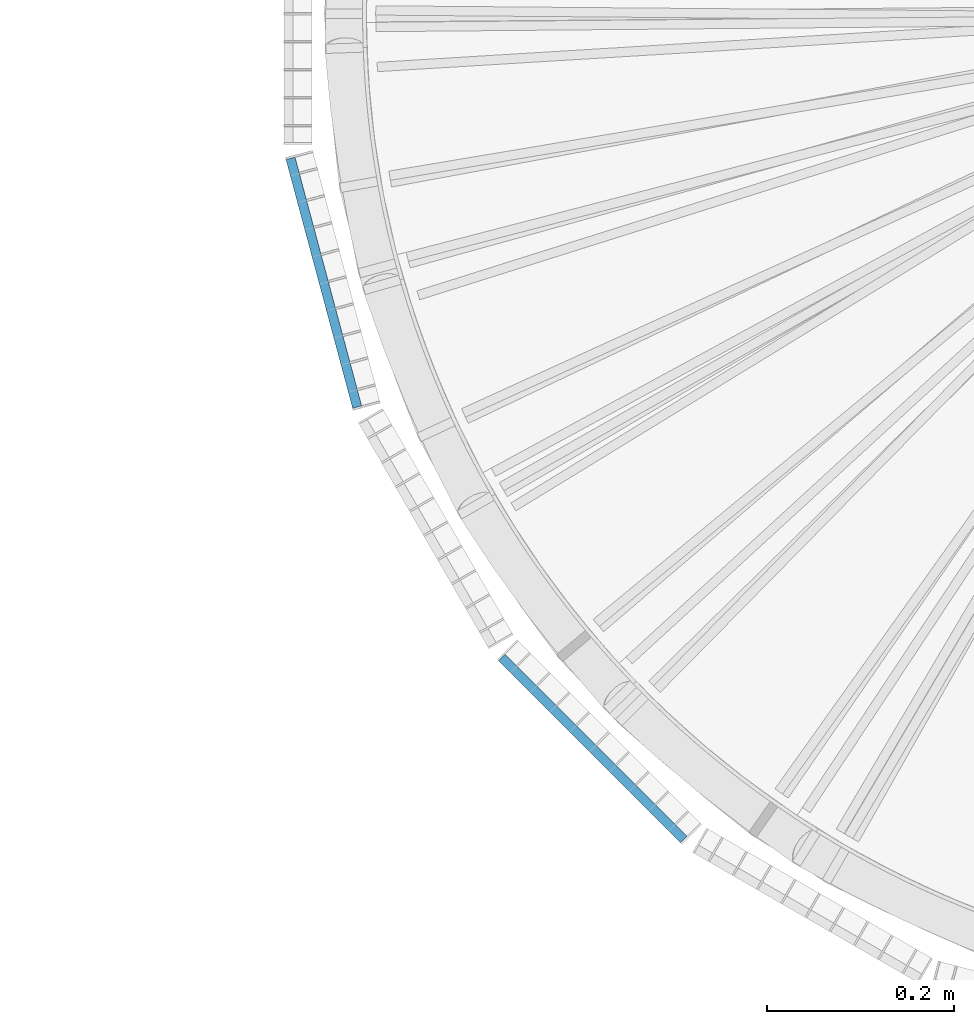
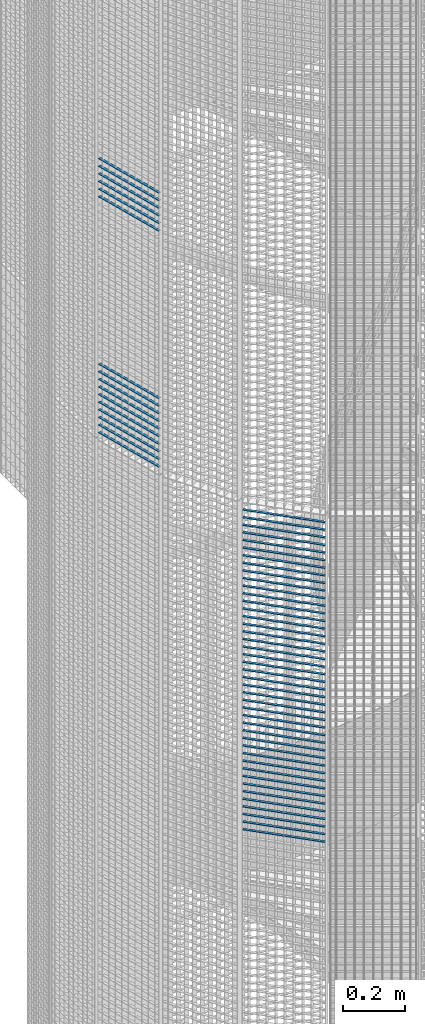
# One storey, part 124 of 1183: 59 beams, 2 elements without a shape of their own.
"""IFC2X3 building model written with IfcOpenShell, lengths in millimetres."""

from ifc_helpers import new_model, si_unit, frame, origin_with_axes, origin_2d_with_axis, place, context, subcontext, project, spatial, rectangle, extrude, material, type_object, element, aggregate, save


model = new_model("IFC2X3")

# Units and contexts
model_context = context("Model", 3, precision=1e-05, world=origin_with_axes())
body_context = subcontext(model_context, "Body", "Model", "MODEL_VIEW")
ifc_project = project(units=[si_unit("LENGTHUNIT", "METRE", prefix="MILLI"), si_unit("AREAUNIT", "SQUARE_METRE"), si_unit("VOLUMEUNIT", "CUBIC_METRE"), si_unit("MASSUNIT", "GRAM", prefix="KILO"), si_unit("TIMEUNIT", "SECOND"), si_unit("PLANEANGLEUNIT", "RADIAN"), si_unit("SOLIDANGLEUNIT", "STERADIAN"), si_unit("THERMODYNAMICTEMPERATUREUNIT", "DEGREE_CELSIUS"), si_unit("LUMINOUSINTENSITYUNIT", "LUMEN")], contexts=[model_context])

# Site, building, storey
site_placement = place(None, origin_with_axes())
site = spatial("IfcSite", under=ifc_project, at=site_placement, Name="Undefined", CompositionType="ELEMENT")
building_placement = place(site_placement, origin_with_axes())
building = spatial("IfcBuilding", under=site, at=building_placement, Name="Undefined", CompositionType="ELEMENT")
storey_placement = place(building_placement, origin_with_axes())
storey = spatial("IfcBuildingStorey", under=building, at=storey_placement, Name="Undefined", CompositionType="ELEMENT", Elevation=0.0)

# Assembly, beams
assembly_1_placement = place(storey_placement, origin_with_axes())
assembly_1 = element("IfcElementAssembly", 1, at=assembly_1_placement, inside=storey, Name="BORDURE", AssemblyPlace="NOTDEFINED", PredefinedType="NOTDEFINED")
ifc_material = material(Name="STEEL/S235JR")
beam_type = type_object("IfcBeamType", Name="PL2*10", PredefinedType="NOTDEFINED")
beam_1_placement = place(assembly_1_placement, frame((-1111.25508286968, -154.895926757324, 6960.0), z_axis=(-0.965925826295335, -0.258819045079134, 0.0), x_axis=(0.258819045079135, -0.965925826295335, 0.0)))
beam_1 = element("IfcBeam", 2, at=beam_1_placement, type_object=beam_type, material=ifc_material, Name="ENTRETOISE", context=body_context, shape_type="SweptSolid", body=[
    extrude(rectangle(XDim=2.0, YDim=10.0, at=origin_2d_with_axis()), frame((275.999999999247, 9.09494701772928e-13, 1.53210777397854e-14), z_axis=(-1.0, 0.0, 0.0), x_axis=(0.0, -1.0, 0.0)), (0.0, 0.0, 1.0), 276.0),
])
beam_2_placement = place(assembly_1_placement, frame((-1111.25508286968, -154.895926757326, 6300.0), z_axis=(-0.965925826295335, -0.258819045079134, 0.0), x_axis=(0.258819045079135, -0.965925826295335, 0.0)))
beam_2 = element("IfcBeam", 3, at=beam_2_placement, type_object=beam_type, material=ifc_material, Name="ENTRETOISE", context=body_context, shape_type="SweptSolid", body=[
    extrude(rectangle(XDim=2.0, YDim=10.0, at=origin_2d_with_axis()), frame((275.999999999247, 9.09494701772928e-13, 1.53210777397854e-14), z_axis=(-1.0, 0.0, 0.0), x_axis=(0.0, -1.0, 0.0)), (0.0, 0.0, 1.0), 276.0),
])
beam_3_placement = place(assembly_1_placement, frame((-1111.25508286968, -154.895926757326, 6270.0), z_axis=(-0.965925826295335, -0.258819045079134, 0.0), x_axis=(0.258819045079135, -0.965925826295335, 0.0)))
beam_3 = element("IfcBeam", 4, at=beam_3_placement, type_object=beam_type, material=ifc_material, Name="ENTRETOISE", context=body_context, shape_type="SweptSolid", body=[
    extrude(rectangle(XDim=2.0, YDim=10.0, at=origin_2d_with_axis()), frame((275.999999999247, 9.09494701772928e-13, 1.53210777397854e-14), z_axis=(-1.0, 0.0, 0.0), x_axis=(0.0, -1.0, 0.0)), (0.0, 0.0, 1.0), 276.0),
])
beam_4_placement = place(assembly_1_placement, frame((-1111.25508286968, -154.895926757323, 6990.0), z_axis=(-0.965925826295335, -0.258819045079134, 0.0), x_axis=(0.258819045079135, -0.965925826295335, 0.0)))
beam_4 = element("IfcBeam", 5, at=beam_4_placement, type_object=beam_type, material=ifc_material, Name="ENTRETOISE", context=body_context, shape_type="SweptSolid", body=[
    extrude(rectangle(XDim=2.0, YDim=10.0, at=origin_2d_with_axis()), frame((275.999999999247, 9.09494701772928e-13, 1.53210777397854e-14), z_axis=(-1.0, 0.0, 0.0), x_axis=(0.0, -1.0, 0.0)), (0.0, 0.0, 1.0), 276.0),
])
beam_5_placement = place(assembly_1_placement, frame((-1111.25508286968, -154.895926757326, 6240.0), z_axis=(-0.965925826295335, -0.258819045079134, 0.0), x_axis=(0.258819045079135, -0.965925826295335, 0.0)))
beam_5 = element("IfcBeam", 6, at=beam_5_placement, type_object=beam_type, material=ifc_material, Name="ENTRETOISE", context=body_context, shape_type="SweptSolid", body=[
    extrude(rectangle(XDim=2.0, YDim=10.0, at=origin_2d_with_axis()), frame((275.999999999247, 9.09494701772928e-13, 1.53210777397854e-14), z_axis=(-1.0, 0.0, 0.0), x_axis=(0.0, -1.0, 0.0)), (0.0, 0.0, 1.0), 276.0),
])
beam_6_placement = place(assembly_1_placement, frame((-1111.25508286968, -154.895926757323, 7020.0), z_axis=(-0.965925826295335, -0.258819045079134, 0.0), x_axis=(0.258819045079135, -0.965925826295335, 0.0)))
beam_6 = element("IfcBeam", 7, at=beam_6_placement, type_object=beam_type, material=ifc_material, Name="ENTRETOISE", context=body_context, shape_type="SweptSolid", body=[
    extrude(rectangle(XDim=2.0, YDim=10.0, at=origin_2d_with_axis()), frame((275.999999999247, 9.09494701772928e-13, 1.53210777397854e-14), z_axis=(-1.0, 0.0, 0.0), x_axis=(0.0, -1.0, 0.0)), (0.0, 0.0, 1.0), 276.0),
])
beam_7_placement = place(assembly_1_placement, frame((-1111.25508286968, -154.895926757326, 6210.0), z_axis=(-0.965925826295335, -0.258819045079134, 0.0), x_axis=(0.258819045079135, -0.965925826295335, 0.0)))
beam_7 = element("IfcBeam", 8, at=beam_7_placement, type_object=beam_type, material=ifc_material, Name="ENTRETOISE", context=body_context, shape_type="SweptSolid", body=[
    extrude(rectangle(XDim=2.0, YDim=10.0, at=origin_2d_with_axis()), frame((275.999999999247, 9.09494701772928e-13, 1.53210777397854e-14), z_axis=(-1.0, 0.0, 0.0), x_axis=(0.0, -1.0, 0.0)), (0.0, 0.0, 1.0), 276.0),
])
beam_8_placement = place(assembly_1_placement, frame((-1111.25508286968, -154.895926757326, 6180.0), z_axis=(-0.965925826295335, -0.258819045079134, 0.0), x_axis=(0.258819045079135, -0.965925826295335, 0.0)))
beam_8 = element("IfcBeam", 9, at=beam_8_placement, type_object=beam_type, material=ifc_material, Name="ENTRETOISE", context=body_context, shape_type="SweptSolid", body=[
    extrude(rectangle(XDim=2.0, YDim=10.0, at=origin_2d_with_axis()), frame((275.999999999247, 9.09494701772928e-13, 1.53210777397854e-14), z_axis=(-1.0, 0.0, 0.0), x_axis=(0.0, -1.0, 0.0)), (0.0, 0.0, 1.0), 276.0),
])
beam_9_placement = place(assembly_1_placement, frame((-1111.25508286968, -154.895926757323, 7050.0), z_axis=(-0.965925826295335, -0.258819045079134, 0.0), x_axis=(0.258819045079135, -0.965925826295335, 0.0)))
beam_9 = element("IfcBeam", 10, at=beam_9_placement, type_object=beam_type, material=ifc_material, Name="ENTRETOISE", context=body_context, shape_type="SweptSolid", body=[
    extrude(rectangle(XDim=2.0, YDim=10.0, at=origin_2d_with_axis()), frame((275.999999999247, 9.09494701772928e-13, 1.53210777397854e-14), z_axis=(-1.0, 0.0, 0.0), x_axis=(0.0, -1.0, 0.0)), (0.0, 0.0, 1.0), 276.0),
])
beam_10_placement = place(assembly_1_placement, frame((-1111.25508286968, -154.895926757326, 6150.0), z_axis=(-0.965925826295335, -0.258819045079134, 0.0), x_axis=(0.258819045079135, -0.965925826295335, 0.0)))
beam_10 = element("IfcBeam", 11, at=beam_10_placement, type_object=beam_type, material=ifc_material, Name="ENTRETOISE", context=body_context, shape_type="SweptSolid", body=[
    extrude(rectangle(XDim=2.0, YDim=10.0, at=origin_2d_with_axis()), frame((275.999999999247, 9.09494701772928e-13, 1.53210777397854e-14), z_axis=(-1.0, 0.0, 0.0), x_axis=(0.0, -1.0, 0.0)), (0.0, 0.0, 1.0), 276.0),
])
beam_11_placement = place(assembly_1_placement, frame((-1111.25508286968, -154.895926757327, 6120.0), z_axis=(-0.965925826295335, -0.258819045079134, 0.0), x_axis=(0.258819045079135, -0.965925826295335, 0.0)))
beam_11 = element("IfcBeam", 12, at=beam_11_placement, type_object=beam_type, material=ifc_material, Name="ENTRETOISE", context=body_context, shape_type="SweptSolid", body=[
    extrude(rectangle(XDim=2.0, YDim=10.0, at=origin_2d_with_axis()), frame((275.999999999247, 9.09494701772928e-13, 1.53210777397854e-14), z_axis=(-1.0, 0.0, 0.0), x_axis=(0.0, -1.0, 0.0)), (0.0, 0.0, 1.0), 276.0),
])
beam_12_placement = place(assembly_1_placement, frame((-1111.25508286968, -154.895926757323, 7080.0), z_axis=(-0.965925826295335, -0.258819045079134, 0.0), x_axis=(0.258819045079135, -0.965925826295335, 0.0)))
beam_12 = element("IfcBeam", 13, at=beam_12_placement, type_object=beam_type, material=ifc_material, Name="ENTRETOISE", context=body_context, shape_type="SweptSolid", body=[
    extrude(rectangle(XDim=2.0, YDim=10.0, at=origin_2d_with_axis()), frame((275.999999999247, 9.09494701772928e-13, 1.53210777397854e-14), z_axis=(-1.0, 0.0, 0.0), x_axis=(0.0, -1.0, 0.0)), (0.0, 0.0, 1.0), 276.0),
])
beam_13_placement = place(assembly_1_placement, frame((-1111.25508286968, -154.895926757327, 6090.0), z_axis=(-0.965925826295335, -0.258819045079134, 0.0), x_axis=(0.258819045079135, -0.965925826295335, 0.0)))
beam_13 = element("IfcBeam", 14, at=beam_13_placement, type_object=beam_type, material=ifc_material, Name="ENTRETOISE", context=body_context, shape_type="SweptSolid", body=[
    extrude(rectangle(XDim=2.0, YDim=10.0, at=origin_2d_with_axis()), frame((275.999999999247, 9.09494701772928e-13, 1.53210777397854e-14), z_axis=(-1.0, 0.0, 0.0), x_axis=(0.0, -1.0, 0.0)), (0.0, 0.0, 1.0), 276.0),
])
beam_14_placement = place(assembly_1_placement, frame((-1111.25508286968, -154.895926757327, 6060.0), z_axis=(-0.965925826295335, -0.258819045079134, 0.0), x_axis=(0.258819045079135, -0.965925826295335, 0.0)))
beam_14 = element("IfcBeam", 15, at=beam_14_placement, type_object=beam_type, material=ifc_material, Name="ENTRETOISE", context=body_context, shape_type="SweptSolid", body=[
    extrude(rectangle(XDim=2.0, YDim=10.0, at=origin_2d_with_axis()), frame((275.999999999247, 9.09494701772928e-13, 1.53210777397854e-14), z_axis=(-1.0, 0.0, 0.0), x_axis=(0.0, -1.0, 0.0)), (0.0, 0.0, 1.0), 276.0),
])
beam_15_placement = place(assembly_1_placement, frame((-1111.25508286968, -154.895926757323, 7110.0), z_axis=(-0.965925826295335, -0.258819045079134, 0.0), x_axis=(0.258819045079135, -0.965925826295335, 0.0)))
beam_15 = element("IfcBeam", 16, at=beam_15_placement, type_object=beam_type, material=ifc_material, Name="ENTRETOISE", context=body_context, shape_type="SweptSolid", body=[
    extrude(rectangle(XDim=2.0, YDim=10.0, at=origin_2d_with_axis()), frame((275.999999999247, 9.09494701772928e-13, 1.53210777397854e-14), z_axis=(-1.0, 0.0, 0.0), x_axis=(0.0, -1.0, 0.0)), (0.0, 0.0, 1.0), 276.0),
])
beam_16_placement = place(assembly_1_placement, frame((-1111.25508286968, -154.895926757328, 6030.0), z_axis=(-0.965925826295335, -0.258819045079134, 0.0), x_axis=(0.258819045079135, -0.965925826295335, 0.0)))
beam_16 = element("IfcBeam", 17, at=beam_16_placement, type_object=beam_type, material=ifc_material, Name="ENTRETOISE", context=body_context, shape_type="SweptSolid", body=[
    extrude(rectangle(XDim=2.0, YDim=10.0, at=origin_2d_with_axis()), frame((275.999999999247, 9.09494701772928e-13, 1.53210777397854e-14), z_axis=(-1.0, 0.0, 0.0), x_axis=(0.0, -1.0, 0.0)), (0.0, 0.0, 1.0), 276.0),
])
aggregate(assembly_1, [beam_1, beam_2, beam_3, beam_4, beam_5, beam_6, beam_7, beam_8, beam_9, beam_10, beam_11, beam_12, beam_13, beam_14, beam_15, beam_16])

assembly_2_placement = place(storey_placement, origin_with_axes())
assembly_2 = element("IfcElementAssembly", 18, at=assembly_2_placement, inside=storey, Name="BORDURE", AssemblyPlace="NOTDEFINED", PredefinedType="NOTDEFINED")
beam_17_placement = place(assembly_2_placement, frame((-884.927168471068, -689.771348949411, 5970.0), z_axis=(-0.70710678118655, -0.707106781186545, 0.0), x_axis=(0.707106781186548, -0.707106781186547, 0.0)))
beam_17 = element("IfcBeam", 19, at=beam_17_placement, type_object=beam_type, material=ifc_material, Name="ENTRETOISE", context=body_context, shape_type="SweptSolid", body=[
    extrude(rectangle(XDim=2.0, YDim=10.0, at=origin_2d_with_axis()), frame((275.999999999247, 9.09494701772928e-13, 1.53210777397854e-14), z_axis=(-1.0, 0.0, 0.0), x_axis=(0.0, -1.0, 0.0)), (0.0, 0.0, 1.0), 276.0),
])
beam_18_placement = place(assembly_2_placement, frame((-884.927168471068, -689.771348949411, 5940.0), z_axis=(-0.70710678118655, -0.707106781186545, 0.0), x_axis=(0.707106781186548, -0.707106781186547, 0.0)))
beam_18 = element("IfcBeam", 20, at=beam_18_placement, type_object=beam_type, material=ifc_material, Name="ENTRETOISE", context=body_context, shape_type="SweptSolid", body=[
    extrude(rectangle(XDim=2.0, YDim=10.0, at=origin_2d_with_axis()), frame((275.999999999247, 9.09494701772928e-13, 1.53210777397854e-14), z_axis=(-1.0, 0.0, 0.0), x_axis=(0.0, -1.0, 0.0)), (0.0, 0.0, 1.0), 276.0),
])
beam_19_placement = place(assembly_2_placement, frame((-884.927168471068, -689.771348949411, 5910.0), z_axis=(-0.70710678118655, -0.707106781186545, 0.0), x_axis=(0.707106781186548, -0.707106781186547, 0.0)))
beam_19 = element("IfcBeam", 21, at=beam_19_placement, type_object=beam_type, material=ifc_material, Name="ENTRETOISE", context=body_context, shape_type="SweptSolid", body=[
    extrude(rectangle(XDim=2.0, YDim=10.0, at=origin_2d_with_axis()), frame((275.999999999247, 9.09494701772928e-13, 1.53210777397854e-14), z_axis=(-1.0, 0.0, 0.0), x_axis=(0.0, -1.0, 0.0)), (0.0, 0.0, 1.0), 276.0),
])
beam_20_placement = place(assembly_2_placement, frame((-884.927168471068, -689.771348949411, 5880.0), z_axis=(-0.70710678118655, -0.707106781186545, 0.0), x_axis=(0.707106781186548, -0.707106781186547, 0.0)))
beam_20 = element("IfcBeam", 22, at=beam_20_placement, type_object=beam_type, material=ifc_material, Name="ENTRETOISE", context=body_context, shape_type="SweptSolid", body=[
    extrude(rectangle(XDim=2.0, YDim=10.0, at=origin_2d_with_axis()), frame((275.999999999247, 9.09494701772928e-13, 1.53210777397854e-14), z_axis=(-1.0, 0.0, 0.0), x_axis=(0.0, -1.0, 0.0)), (0.0, 0.0, 1.0), 276.0),
])
beam_21_placement = place(assembly_2_placement, frame((-884.927168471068, -689.771348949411, 5850.0), z_axis=(-0.70710678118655, -0.707106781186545, 0.0), x_axis=(0.707106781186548, -0.707106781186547, 0.0)))
beam_21 = element("IfcBeam", 23, at=beam_21_placement, type_object=beam_type, material=ifc_material, Name="ENTRETOISE", context=body_context, shape_type="SweptSolid", body=[
    extrude(rectangle(XDim=2.0, YDim=10.0, at=origin_2d_with_axis()), frame((275.999999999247, 9.09494701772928e-13, 1.53210777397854e-14), z_axis=(-1.0, 0.0, 0.0), x_axis=(0.0, -1.0, 0.0)), (0.0, 0.0, 1.0), 276.0),
])
beam_22_placement = place(assembly_2_placement, frame((-884.927168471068, -689.771348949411, 5820.0), z_axis=(-0.70710678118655, -0.707106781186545, 0.0), x_axis=(0.707106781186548, -0.707106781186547, 0.0)))
beam_22 = element("IfcBeam", 24, at=beam_22_placement, type_object=beam_type, material=ifc_material, Name="ENTRETOISE", context=body_context, shape_type="SweptSolid", body=[
    extrude(rectangle(XDim=2.0, YDim=10.0, at=origin_2d_with_axis()), frame((275.999999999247, 9.09494701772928e-13, 1.53210777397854e-14), z_axis=(-1.0, 0.0, 0.0), x_axis=(0.0, -1.0, 0.0)), (0.0, 0.0, 1.0), 276.0),
])
beam_23_placement = place(assembly_2_placement, frame((-884.927168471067, -689.771348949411, 5790.0), z_axis=(-0.70710678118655, -0.707106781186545, 0.0), x_axis=(0.707106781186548, -0.707106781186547, 0.0)))
beam_23 = element("IfcBeam", 25, at=beam_23_placement, type_object=beam_type, material=ifc_material, Name="ENTRETOISE", context=body_context, shape_type="SweptSolid", body=[
    extrude(rectangle(XDim=2.0, YDim=10.0, at=origin_2d_with_axis()), frame((275.999999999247, 9.09494701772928e-13, 1.53210777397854e-14), z_axis=(-1.0, 0.0, 0.0), x_axis=(0.0, -1.0, 0.0)), (0.0, 0.0, 1.0), 276.0),
])
beam_24_placement = place(assembly_2_placement, frame((-884.927168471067, -689.771348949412, 5760.0), z_axis=(-0.70710678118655, -0.707106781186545, 0.0), x_axis=(0.707106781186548, -0.707106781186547, 0.0)))
beam_24 = element("IfcBeam", 26, at=beam_24_placement, type_object=beam_type, material=ifc_material, Name="ENTRETOISE", context=body_context, shape_type="SweptSolid", body=[
    extrude(rectangle(XDim=2.0, YDim=10.0, at=origin_2d_with_axis()), frame((275.999999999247, 9.09494701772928e-13, 1.53210777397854e-14), z_axis=(-1.0, 0.0, 0.0), x_axis=(0.0, -1.0, 0.0)), (0.0, 0.0, 1.0), 276.0),
])
beam_25_placement = place(assembly_2_placement, frame((-884.927168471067, -689.771348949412, 5730.0), z_axis=(-0.70710678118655, -0.707106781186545, 0.0), x_axis=(0.707106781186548, -0.707106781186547, 0.0)))
beam_25 = element("IfcBeam", 27, at=beam_25_placement, type_object=beam_type, material=ifc_material, Name="ENTRETOISE", context=body_context, shape_type="SweptSolid", body=[
    extrude(rectangle(XDim=2.0, YDim=10.0, at=origin_2d_with_axis()), frame((275.999999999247, 9.09494701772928e-13, 1.53210777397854e-14), z_axis=(-1.0, 0.0, 0.0), x_axis=(0.0, -1.0, 0.0)), (0.0, 0.0, 1.0), 276.0),
])
beam_26_placement = place(assembly_2_placement, frame((-884.927168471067, -689.771348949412, 5700.0), z_axis=(-0.70710678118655, -0.707106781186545, 0.0), x_axis=(0.707106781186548, -0.707106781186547, 0.0)))
beam_26 = element("IfcBeam", 28, at=beam_26_placement, type_object=beam_type, material=ifc_material, Name="ENTRETOISE", context=body_context, shape_type="SweptSolid", body=[
    extrude(rectangle(XDim=2.0, YDim=10.0, at=origin_2d_with_axis()), frame((275.999999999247, 9.09494701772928e-13, 1.53210777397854e-14), z_axis=(-1.0, 0.0, 0.0), x_axis=(0.0, -1.0, 0.0)), (0.0, 0.0, 1.0), 276.0),
])
beam_27_placement = place(assembly_2_placement, frame((-884.927168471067, -689.771348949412, 5670.0), z_axis=(-0.70710678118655, -0.707106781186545, 0.0), x_axis=(0.707106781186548, -0.707106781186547, 0.0)))
beam_27 = element("IfcBeam", 29, at=beam_27_placement, type_object=beam_type, material=ifc_material, Name="ENTRETOISE", context=body_context, shape_type="SweptSolid", body=[
    extrude(rectangle(XDim=2.0, YDim=10.0, at=origin_2d_with_axis()), frame((275.999999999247, 9.09494701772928e-13, 1.53210777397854e-14), z_axis=(-1.0, 0.0, 0.0), x_axis=(0.0, -1.0, 0.0)), (0.0, 0.0, 1.0), 276.0),
])
beam_28_placement = place(assembly_2_placement, frame((-884.927168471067, -689.771348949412, 5640.0), z_axis=(-0.70710678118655, -0.707106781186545, 0.0), x_axis=(0.707106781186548, -0.707106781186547, 0.0)))
beam_28 = element("IfcBeam", 30, at=beam_28_placement, type_object=beam_type, material=ifc_material, Name="ENTRETOISE", context=body_context, shape_type="SweptSolid", body=[
    extrude(rectangle(XDim=2.0, YDim=10.0, at=origin_2d_with_axis()), frame((275.999999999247, 9.09494701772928e-13, 1.53210777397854e-14), z_axis=(-1.0, 0.0, 0.0), x_axis=(0.0, -1.0, 0.0)), (0.0, 0.0, 1.0), 276.0),
])
beam_29_placement = place(assembly_2_placement, frame((-884.927168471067, -689.771348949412, 5610.0), z_axis=(-0.70710678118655, -0.707106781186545, 0.0), x_axis=(0.707106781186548, -0.707106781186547, 0.0)))
beam_29 = element("IfcBeam", 31, at=beam_29_placement, type_object=beam_type, material=ifc_material, Name="ENTRETOISE", context=body_context, shape_type="SweptSolid", body=[
    extrude(rectangle(XDim=2.0, YDim=10.0, at=origin_2d_with_axis()), frame((275.999999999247, 9.09494701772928e-13, 1.53210777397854e-14), z_axis=(-1.0, 0.0, 0.0), x_axis=(0.0, -1.0, 0.0)), (0.0, 0.0, 1.0), 276.0),
])
beam_30_placement = place(assembly_2_placement, frame((-884.927168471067, -689.771348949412, 5580.0), z_axis=(-0.70710678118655, -0.707106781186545, 0.0), x_axis=(0.707106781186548, -0.707106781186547, 0.0)))
beam_30 = element("IfcBeam", 32, at=beam_30_placement, type_object=beam_type, material=ifc_material, Name="ENTRETOISE", context=body_context, shape_type="SweptSolid", body=[
    extrude(rectangle(XDim=2.0, YDim=10.0, at=origin_2d_with_axis()), frame((275.999999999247, 9.09494701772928e-13, 1.53210777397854e-14), z_axis=(-1.0, 0.0, 0.0), x_axis=(0.0, -1.0, 0.0)), (0.0, 0.0, 1.0), 276.0),
])
beam_31_placement = place(assembly_2_placement, frame((-884.927168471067, -689.771348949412, 5550.0), z_axis=(-0.70710678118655, -0.707106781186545, 0.0), x_axis=(0.707106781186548, -0.707106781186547, 0.0)))
beam_31 = element("IfcBeam", 33, at=beam_31_placement, type_object=beam_type, material=ifc_material, Name="ENTRETOISE", context=body_context, shape_type="SweptSolid", body=[
    extrude(rectangle(XDim=2.0, YDim=10.0, at=origin_2d_with_axis()), frame((275.999999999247, 9.09494701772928e-13, 1.53210777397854e-14), z_axis=(-1.0, 0.0, 0.0), x_axis=(0.0, -1.0, 0.0)), (0.0, 0.0, 1.0), 276.0),
])
beam_32_placement = place(assembly_2_placement, frame((-884.927168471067, -689.771348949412, 5520.0), z_axis=(-0.70710678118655, -0.707106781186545, 0.0), x_axis=(0.707106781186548, -0.707106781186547, 0.0)))
beam_32 = element("IfcBeam", 34, at=beam_32_placement, type_object=beam_type, material=ifc_material, Name="ENTRETOISE", context=body_context, shape_type="SweptSolid", body=[
    extrude(rectangle(XDim=2.0, YDim=10.0, at=origin_2d_with_axis()), frame((275.999999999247, 9.09494701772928e-13, 1.53210777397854e-14), z_axis=(-1.0, 0.0, 0.0), x_axis=(0.0, -1.0, 0.0)), (0.0, 0.0, 1.0), 276.0),
])
beam_33_placement = place(assembly_2_placement, frame((-884.927168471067, -689.771348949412, 5490.0), z_axis=(-0.70710678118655, -0.707106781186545, 0.0), x_axis=(0.707106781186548, -0.707106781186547, 0.0)))
beam_33 = element("IfcBeam", 35, at=beam_33_placement, type_object=beam_type, material=ifc_material, Name="ENTRETOISE", context=body_context, shape_type="SweptSolid", body=[
    extrude(rectangle(XDim=2.0, YDim=10.0, at=origin_2d_with_axis()), frame((275.999999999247, 9.09494701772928e-13, 1.53210777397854e-14), z_axis=(-1.0, 0.0, 0.0), x_axis=(0.0, -1.0, 0.0)), (0.0, 0.0, 1.0), 276.0),
])
beam_34_placement = place(assembly_2_placement, frame((-884.927168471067, -689.771348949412, 5460.0), z_axis=(-0.70710678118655, -0.707106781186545, 0.0), x_axis=(0.707106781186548, -0.707106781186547, 0.0)))
beam_34 = element("IfcBeam", 36, at=beam_34_placement, type_object=beam_type, material=ifc_material, Name="ENTRETOISE", context=body_context, shape_type="SweptSolid", body=[
    extrude(rectangle(XDim=2.0, YDim=10.0, at=origin_2d_with_axis()), frame((275.999999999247, 9.09494701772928e-13, 1.53210777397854e-14), z_axis=(-1.0, 0.0, 0.0), x_axis=(0.0, -1.0, 0.0)), (0.0, 0.0, 1.0), 276.0),
])
beam_35_placement = place(assembly_2_placement, frame((-884.927168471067, -689.771348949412, 5430.0), z_axis=(-0.70710678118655, -0.707106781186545, 0.0), x_axis=(0.707106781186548, -0.707106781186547, 0.0)))
beam_35 = element("IfcBeam", 37, at=beam_35_placement, type_object=beam_type, material=ifc_material, Name="ENTRETOISE", context=body_context, shape_type="SweptSolid", body=[
    extrude(rectangle(XDim=2.0, YDim=10.0, at=origin_2d_with_axis()), frame((275.999999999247, 9.09494701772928e-13, 1.53210777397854e-14), z_axis=(-1.0, 0.0, 0.0), x_axis=(0.0, -1.0, 0.0)), (0.0, 0.0, 1.0), 276.0),
])
beam_36_placement = place(assembly_2_placement, frame((-884.927168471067, -689.771348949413, 5400.0), z_axis=(-0.70710678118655, -0.707106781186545, 0.0), x_axis=(0.707106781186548, -0.707106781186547, 0.0)))
beam_36 = element("IfcBeam", 38, at=beam_36_placement, type_object=beam_type, material=ifc_material, Name="ENTRETOISE", context=body_context, shape_type="SweptSolid", body=[
    extrude(rectangle(XDim=2.0, YDim=10.0, at=origin_2d_with_axis()), frame((275.999999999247, 9.09494701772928e-13, 1.53210777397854e-14), z_axis=(-1.0, 0.0, 0.0), x_axis=(0.0, -1.0, 0.0)), (0.0, 0.0, 1.0), 276.0),
])
beam_37_placement = place(assembly_2_placement, frame((-884.927168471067, -689.771348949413, 5370.0), z_axis=(-0.70710678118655, -0.707106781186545, 0.0), x_axis=(0.707106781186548, -0.707106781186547, 0.0)))
beam_37 = element("IfcBeam", 39, at=beam_37_placement, type_object=beam_type, material=ifc_material, Name="ENTRETOISE", context=body_context, shape_type="SweptSolid", body=[
    extrude(rectangle(XDim=2.0, YDim=10.0, at=origin_2d_with_axis()), frame((275.999999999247, 9.09494701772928e-13, 1.53210777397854e-14), z_axis=(-1.0, 0.0, 0.0), x_axis=(0.0, -1.0, 0.0)), (0.0, 0.0, 1.0), 276.0),
])
beam_38_placement = place(assembly_2_placement, frame((-884.927168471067, -689.771348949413, 5340.0), z_axis=(-0.70710678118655, -0.707106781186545, 0.0), x_axis=(0.707106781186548, -0.707106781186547, 0.0)))
beam_38 = element("IfcBeam", 40, at=beam_38_placement, type_object=beam_type, material=ifc_material, Name="ENTRETOISE", context=body_context, shape_type="SweptSolid", body=[
    extrude(rectangle(XDim=2.0, YDim=10.0, at=origin_2d_with_axis()), frame((275.999999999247, 9.09494701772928e-13, 1.53210777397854e-14), z_axis=(-1.0, 0.0, 0.0), x_axis=(0.0, -1.0, 0.0)), (0.0, 0.0, 1.0), 276.0),
])
beam_39_placement = place(assembly_2_placement, frame((-884.927168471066, -689.771348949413, 5310.0), z_axis=(-0.70710678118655, -0.707106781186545, 0.0), x_axis=(0.707106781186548, -0.707106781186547, 0.0)))
beam_39 = element("IfcBeam", 41, at=beam_39_placement, type_object=beam_type, material=ifc_material, Name="ENTRETOISE", context=body_context, shape_type="SweptSolid", body=[
    extrude(rectangle(XDim=2.0, YDim=10.0, at=origin_2d_with_axis()), frame((275.999999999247, 9.09494701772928e-13, 1.53210777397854e-14), z_axis=(-1.0, 0.0, 0.0), x_axis=(0.0, -1.0, 0.0)), (0.0, 0.0, 1.0), 276.0),
])
beam_40_placement = place(assembly_2_placement, frame((-884.927168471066, -689.771348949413, 5280.0), z_axis=(-0.70710678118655, -0.707106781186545, 0.0), x_axis=(0.707106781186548, -0.707106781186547, 0.0)))
beam_40 = element("IfcBeam", 42, at=beam_40_placement, type_object=beam_type, material=ifc_material, Name="ENTRETOISE", context=body_context, shape_type="SweptSolid", body=[
    extrude(rectangle(XDim=2.0, YDim=10.0, at=origin_2d_with_axis()), frame((275.999999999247, 9.09494701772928e-13, 1.53210777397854e-14), z_axis=(-1.0, 0.0, 0.0), x_axis=(0.0, -1.0, 0.0)), (0.0, 0.0, 1.0), 276.0),
])
beam_41_placement = place(assembly_2_placement, frame((-884.927168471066, -689.771348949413, 5250.0), z_axis=(-0.70710678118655, -0.707106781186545, 0.0), x_axis=(0.707106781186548, -0.707106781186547, 0.0)))
beam_41 = element("IfcBeam", 43, at=beam_41_placement, type_object=beam_type, material=ifc_material, Name="ENTRETOISE", context=body_context, shape_type="SweptSolid", body=[
    extrude(rectangle(XDim=2.0, YDim=10.0, at=origin_2d_with_axis()), frame((275.999999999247, 9.09494701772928e-13, 1.53210777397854e-14), z_axis=(-1.0, 0.0, 0.0), x_axis=(0.0, -1.0, 0.0)), (0.0, 0.0, 1.0), 276.0),
])
beam_42_placement = place(assembly_2_placement, frame((-884.927168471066, -689.771348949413, 5220.0), z_axis=(-0.70710678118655, -0.707106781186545, 0.0), x_axis=(0.707106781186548, -0.707106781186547, 0.0)))
beam_42 = element("IfcBeam", 44, at=beam_42_placement, type_object=beam_type, material=ifc_material, Name="ENTRETOISE", context=body_context, shape_type="SweptSolid", body=[
    extrude(rectangle(XDim=2.0, YDim=10.0, at=origin_2d_with_axis()), frame((275.999999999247, 9.09494701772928e-13, 1.53210777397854e-14), z_axis=(-1.0, 0.0, 0.0), x_axis=(0.0, -1.0, 0.0)), (0.0, 0.0, 1.0), 276.0),
])
beam_43_placement = place(assembly_2_placement, frame((-884.927168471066, -689.771348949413, 5190.0), z_axis=(-0.70710678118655, -0.707106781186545, 0.0), x_axis=(0.707106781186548, -0.707106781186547, 0.0)))
beam_43 = element("IfcBeam", 45, at=beam_43_placement, type_object=beam_type, material=ifc_material, Name="ENTRETOISE", context=body_context, shape_type="SweptSolid", body=[
    extrude(rectangle(XDim=2.0, YDim=10.0, at=origin_2d_with_axis()), frame((275.999999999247, 9.09494701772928e-13, 1.53210777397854e-14), z_axis=(-1.0, 0.0, 0.0), x_axis=(0.0, -1.0, 0.0)), (0.0, 0.0, 1.0), 276.0),
])
beam_44_placement = place(assembly_2_placement, frame((-884.927168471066, -689.771348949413, 5160.0), z_axis=(-0.70710678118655, -0.707106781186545, 0.0), x_axis=(0.707106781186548, -0.707106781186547, 0.0)))
beam_44 = element("IfcBeam", 46, at=beam_44_placement, type_object=beam_type, material=ifc_material, Name="ENTRETOISE", context=body_context, shape_type="SweptSolid", body=[
    extrude(rectangle(XDim=2.0, YDim=10.0, at=origin_2d_with_axis()), frame((275.999999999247, 9.09494701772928e-13, 1.53210777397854e-14), z_axis=(-1.0, 0.0, 0.0), x_axis=(0.0, -1.0, 0.0)), (0.0, 0.0, 1.0), 276.0),
])
beam_45_placement = place(assembly_2_placement, frame((-884.927168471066, -689.771348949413, 5130.0), z_axis=(-0.70710678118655, -0.707106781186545, 0.0), x_axis=(0.707106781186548, -0.707106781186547, 0.0)))
beam_45 = element("IfcBeam", 47, at=beam_45_placement, type_object=beam_type, material=ifc_material, Name="ENTRETOISE", context=body_context, shape_type="SweptSolid", body=[
    extrude(rectangle(XDim=2.0, YDim=10.0, at=origin_2d_with_axis()), frame((275.999999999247, 9.09494701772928e-13, 1.53210777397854e-14), z_axis=(-1.0, 0.0, 0.0), x_axis=(0.0, -1.0, 0.0)), (0.0, 0.0, 1.0), 276.0),
])
beam_46_placement = place(assembly_2_placement, frame((-884.927168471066, -689.771348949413, 5100.0), z_axis=(-0.70710678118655, -0.707106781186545, 0.0), x_axis=(0.707106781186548, -0.707106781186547, 0.0)))
beam_46 = element("IfcBeam", 48, at=beam_46_placement, type_object=beam_type, material=ifc_material, Name="ENTRETOISE", context=body_context, shape_type="SweptSolid", body=[
    extrude(rectangle(XDim=2.0, YDim=10.0, at=origin_2d_with_axis()), frame((275.999999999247, 9.09494701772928e-13, 1.53210777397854e-14), z_axis=(-1.0, 0.0, 0.0), x_axis=(0.0, -1.0, 0.0)), (0.0, 0.0, 1.0), 276.0),
])
beam_47_placement = place(assembly_2_placement, frame((-884.927168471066, -689.771348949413, 5070.0), z_axis=(-0.70710678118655, -0.707106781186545, 0.0), x_axis=(0.707106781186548, -0.707106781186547, 0.0)))
beam_47 = element("IfcBeam", 49, at=beam_47_placement, type_object=beam_type, material=ifc_material, Name="ENTRETOISE", context=body_context, shape_type="SweptSolid", body=[
    extrude(rectangle(XDim=2.0, YDim=10.0, at=origin_2d_with_axis()), frame((275.999999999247, 9.09494701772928e-13, 1.53210777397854e-14), z_axis=(-1.0, 0.0, 0.0), x_axis=(0.0, -1.0, 0.0)), (0.0, 0.0, 1.0), 276.0),
])
beam_48_placement = place(assembly_2_placement, frame((-884.927168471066, -689.771348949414, 5040.0), z_axis=(-0.70710678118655, -0.707106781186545, 0.0), x_axis=(0.707106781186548, -0.707106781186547, 0.0)))
beam_48 = element("IfcBeam", 50, at=beam_48_placement, type_object=beam_type, material=ifc_material, Name="ENTRETOISE", context=body_context, shape_type="SweptSolid", body=[
    extrude(rectangle(XDim=2.0, YDim=10.0, at=origin_2d_with_axis()), frame((275.999999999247, 9.09494701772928e-13, 1.53210777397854e-14), z_axis=(-1.0, 0.0, 0.0), x_axis=(0.0, -1.0, 0.0)), (0.0, 0.0, 1.0), 276.0),
])
beam_49_placement = place(assembly_2_placement, frame((-884.927168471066, -689.771348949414, 5010.0), z_axis=(-0.70710678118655, -0.707106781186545, 0.0), x_axis=(0.707106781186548, -0.707106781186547, 0.0)))
beam_49 = element("IfcBeam", 51, at=beam_49_placement, type_object=beam_type, material=ifc_material, Name="ENTRETOISE", context=body_context, shape_type="SweptSolid", body=[
    extrude(rectangle(XDim=2.0, YDim=10.0, at=origin_2d_with_axis()), frame((275.999999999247, 9.09494701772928e-13, 1.53210777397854e-14), z_axis=(-1.0, 0.0, 0.0), x_axis=(0.0, -1.0, 0.0)), (0.0, 0.0, 1.0), 276.0),
])
beam_50_placement = place(assembly_2_placement, frame((-884.927168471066, -689.771348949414, 4980.0), z_axis=(-0.70710678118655, -0.707106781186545, 0.0), x_axis=(0.707106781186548, -0.707106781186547, 0.0)))
beam_50 = element("IfcBeam", 52, at=beam_50_placement, type_object=beam_type, material=ifc_material, Name="ENTRETOISE", context=body_context, shape_type="SweptSolid", body=[
    extrude(rectangle(XDim=2.0, YDim=10.0, at=origin_2d_with_axis()), frame((275.999999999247, 9.09494701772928e-13, 1.53210777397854e-14), z_axis=(-1.0, 0.0, 0.0), x_axis=(0.0, -1.0, 0.0)), (0.0, 0.0, 1.0), 276.0),
])
beam_51_placement = place(assembly_2_placement, frame((-884.927168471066, -689.771348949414, 4950.0), z_axis=(-0.70710678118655, -0.707106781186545, 0.0), x_axis=(0.707106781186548, -0.707106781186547, 0.0)))
beam_51 = element("IfcBeam", 53, at=beam_51_placement, type_object=beam_type, material=ifc_material, Name="ENTRETOISE", context=body_context, shape_type="SweptSolid", body=[
    extrude(rectangle(XDim=2.0, YDim=10.0, at=origin_2d_with_axis()), frame((275.999999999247, 9.09494701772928e-13, 1.53210777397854e-14), z_axis=(-1.0, 0.0, 0.0), x_axis=(0.0, -1.0, 0.0)), (0.0, 0.0, 1.0), 276.0),
])
beam_52_placement = place(assembly_2_placement, frame((-884.927168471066, -689.771348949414, 4920.0), z_axis=(-0.70710678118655, -0.707106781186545, 0.0), x_axis=(0.707106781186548, -0.707106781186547, 0.0)))
beam_52 = element("IfcBeam", 54, at=beam_52_placement, type_object=beam_type, material=ifc_material, Name="ENTRETOISE", context=body_context, shape_type="SweptSolid", body=[
    extrude(rectangle(XDim=2.0, YDim=10.0, at=origin_2d_with_axis()), frame((275.999999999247, 9.09494701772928e-13, 1.53210777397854e-14), z_axis=(-1.0, 0.0, 0.0), x_axis=(0.0, -1.0, 0.0)), (0.0, 0.0, 1.0), 276.0),
])
beam_53_placement = place(assembly_2_placement, frame((-884.927168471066, -689.771348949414, 4890.0), z_axis=(-0.70710678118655, -0.707106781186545, 0.0), x_axis=(0.707106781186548, -0.707106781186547, 0.0)))
beam_53 = element("IfcBeam", 55, at=beam_53_placement, type_object=beam_type, material=ifc_material, Name="ENTRETOISE", context=body_context, shape_type="SweptSolid", body=[
    extrude(rectangle(XDim=2.0, YDim=10.0, at=origin_2d_with_axis()), frame((275.999999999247, 9.09494701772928e-13, 1.53210777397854e-14), z_axis=(-1.0, 0.0, 0.0), x_axis=(0.0, -1.0, 0.0)), (0.0, 0.0, 1.0), 276.0),
])
beam_54_placement = place(assembly_2_placement, frame((-884.927168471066, -689.771348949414, 4860.0), z_axis=(-0.70710678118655, -0.707106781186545, 0.0), x_axis=(0.707106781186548, -0.707106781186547, 0.0)))
beam_54 = element("IfcBeam", 56, at=beam_54_placement, type_object=beam_type, material=ifc_material, Name="ENTRETOISE", context=body_context, shape_type="SweptSolid", body=[
    extrude(rectangle(XDim=2.0, YDim=10.0, at=origin_2d_with_axis()), frame((275.999999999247, 9.09494701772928e-13, 1.53210777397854e-14), z_axis=(-1.0, 0.0, 0.0), x_axis=(0.0, -1.0, 0.0)), (0.0, 0.0, 1.0), 276.0),
])
beam_55_placement = place(assembly_2_placement, frame((-884.927168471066, -689.771348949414, 4830.0), z_axis=(-0.70710678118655, -0.707106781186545, 0.0), x_axis=(0.707106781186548, -0.707106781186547, 0.0)))
beam_55 = element("IfcBeam", 57, at=beam_55_placement, type_object=beam_type, material=ifc_material, Name="ENTRETOISE", context=body_context, shape_type="SweptSolid", body=[
    extrude(rectangle(XDim=2.0, YDim=10.0, at=origin_2d_with_axis()), frame((275.999999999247, 9.09494701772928e-13, 1.53210777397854e-14), z_axis=(-1.0, 0.0, 0.0), x_axis=(0.0, -1.0, 0.0)), (0.0, 0.0, 1.0), 276.0),
])
beam_56_placement = place(assembly_2_placement, frame((-884.927168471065, -689.771348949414, 4800.0), z_axis=(-0.70710678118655, -0.707106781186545, 0.0), x_axis=(0.707106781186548, -0.707106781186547, 0.0)))
beam_56 = element("IfcBeam", 58, at=beam_56_placement, type_object=beam_type, material=ifc_material, Name="ENTRETOISE", context=body_context, shape_type="SweptSolid", body=[
    extrude(rectangle(XDim=2.0, YDim=10.0, at=origin_2d_with_axis()), frame((275.999999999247, 9.09494701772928e-13, 1.53210777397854e-14), z_axis=(-1.0, 0.0, 0.0), x_axis=(0.0, -1.0, 0.0)), (0.0, 0.0, 1.0), 276.0),
])
beam_57_placement = place(assembly_2_placement, frame((-884.927168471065, -689.771348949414, 4770.0), z_axis=(-0.70710678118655, -0.707106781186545, 0.0), x_axis=(0.707106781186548, -0.707106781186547, 0.0)))
beam_57 = element("IfcBeam", 59, at=beam_57_placement, type_object=beam_type, material=ifc_material, Name="ENTRETOISE", context=body_context, shape_type="SweptSolid", body=[
    extrude(rectangle(XDim=2.0, YDim=10.0, at=origin_2d_with_axis()), frame((275.999999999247, 9.09494701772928e-13, 1.53210777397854e-14), z_axis=(-1.0, 0.0, 0.0), x_axis=(0.0, -1.0, 0.0)), (0.0, 0.0, 1.0), 276.0),
])
beam_58_placement = place(assembly_2_placement, frame((-884.927168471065, -689.771348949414, 4740.0), z_axis=(-0.70710678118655, -0.707106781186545, 0.0), x_axis=(0.707106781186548, -0.707106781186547, 0.0)))
beam_58 = element("IfcBeam", 60, at=beam_58_placement, type_object=beam_type, material=ifc_material, Name="ENTRETOISE", context=body_context, shape_type="SweptSolid", body=[
    extrude(rectangle(XDim=2.0, YDim=10.0, at=origin_2d_with_axis()), frame((275.999999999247, 9.09494701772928e-13, 1.53210777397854e-14), z_axis=(-1.0, 0.0, 0.0), x_axis=(0.0, -1.0, 0.0)), (0.0, 0.0, 1.0), 276.0),
])
beam_59_placement = place(assembly_2_placement, frame((-884.927168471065, -689.771348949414, 4710.0), z_axis=(-0.70710678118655, -0.707106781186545, 0.0), x_axis=(0.707106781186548, -0.707106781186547, 0.0)))
beam_59 = element("IfcBeam", 61, at=beam_59_placement, type_object=beam_type, material=ifc_material, Name="ENTRETOISE", context=body_context, shape_type="SweptSolid", body=[
    extrude(rectangle(XDim=2.0, YDim=10.0, at=origin_2d_with_axis()), frame((275.999999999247, 9.09494701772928e-13, 1.53210777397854e-14), z_axis=(-1.0, 0.0, 0.0), x_axis=(0.0, -1.0, 0.0)), (0.0, 0.0, 1.0), 276.0),
])
aggregate(assembly_2, [beam_17, beam_18, beam_19, beam_20, beam_21, beam_22, beam_23, beam_24, beam_25, beam_26, beam_27, beam_28, beam_29, beam_30, beam_31, beam_32, beam_33, beam_34, beam_35, beam_36, beam_37, beam_38, beam_39, beam_40, beam_41, beam_42, beam_43, beam_44, beam_45, beam_46, beam_47, beam_48, beam_49, beam_50, beam_51, beam_52, beam_53, beam_54, beam_55, beam_56, beam_57, beam_58, beam_59])

save(model, "model.ifc")
